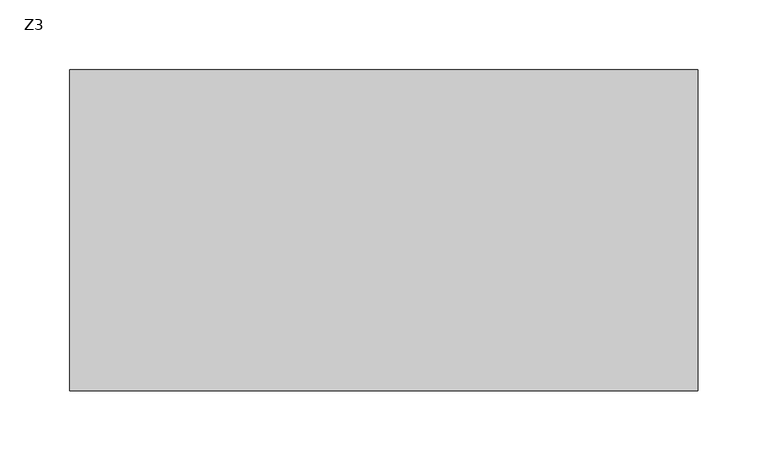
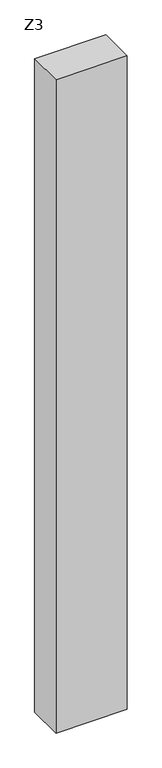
"""IFC4 building model written with IfcOpenShell, lengths in millimetres: column geometry, 混凝土 - 矩形 - 柱 : Z3."""

from ifc_helpers import new_model, si_unit, frame, origin, place, context, project, spatial, polyline, outline, extrude, source, transform, mapped, element, save


def z3_80b114b1(model_context):
    return source(origin(), model_context, "Body", "SweptSolid", [
        extrude(outline(polyline([(225.0, 115.0), (225.0, -115.0), (-225.0, -115.0), (-225.0, 115.0), (225.0, 115.0)])), frame((0.0, 0.0, -450.0), z_axis=(0.0, 0.0, 1.0), x_axis=(1.0, 0.0, 0.0)), (0.0, 0.0, 1.0), 4350.0),
    ])


if __name__ == "__main__":
    model = new_model("IFC4")
    model_context = context("Model", 3, world=origin())
    ifc_project = project(units=[si_unit("LENGTHUNIT", "METRE", prefix="MILLI")], contexts=[model_context])
    site = spatial("IfcSite", under=ifc_project)
    building = spatial("IfcBuilding", under=site)
    placement = place(None, origin())
    z3_shape = z3_80b114b1(model_context)
    element("IfcColumn", 1, ObjectType="混凝土 - 矩形 - 柱 : Z3", at=placement, inside=building, context=model_context, shape_type="MappedRepresentation", body=[
        mapped(z3_shape, transform((0.0, 0.0, 0.0), x_axis=(1.0, 0.0, 0.0), y_axis=(0.0, 1.0, 0.0), z_axis=(0.0, 0.0, 1.0))),
    ])
    save(model, "model.ifc")
